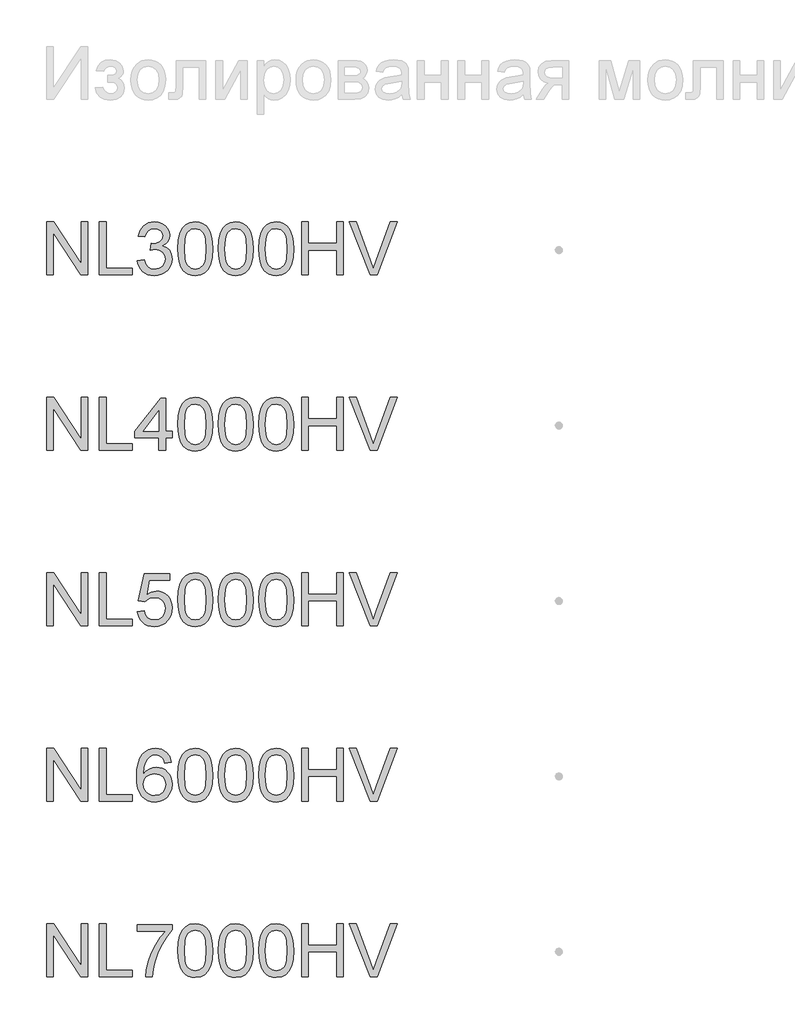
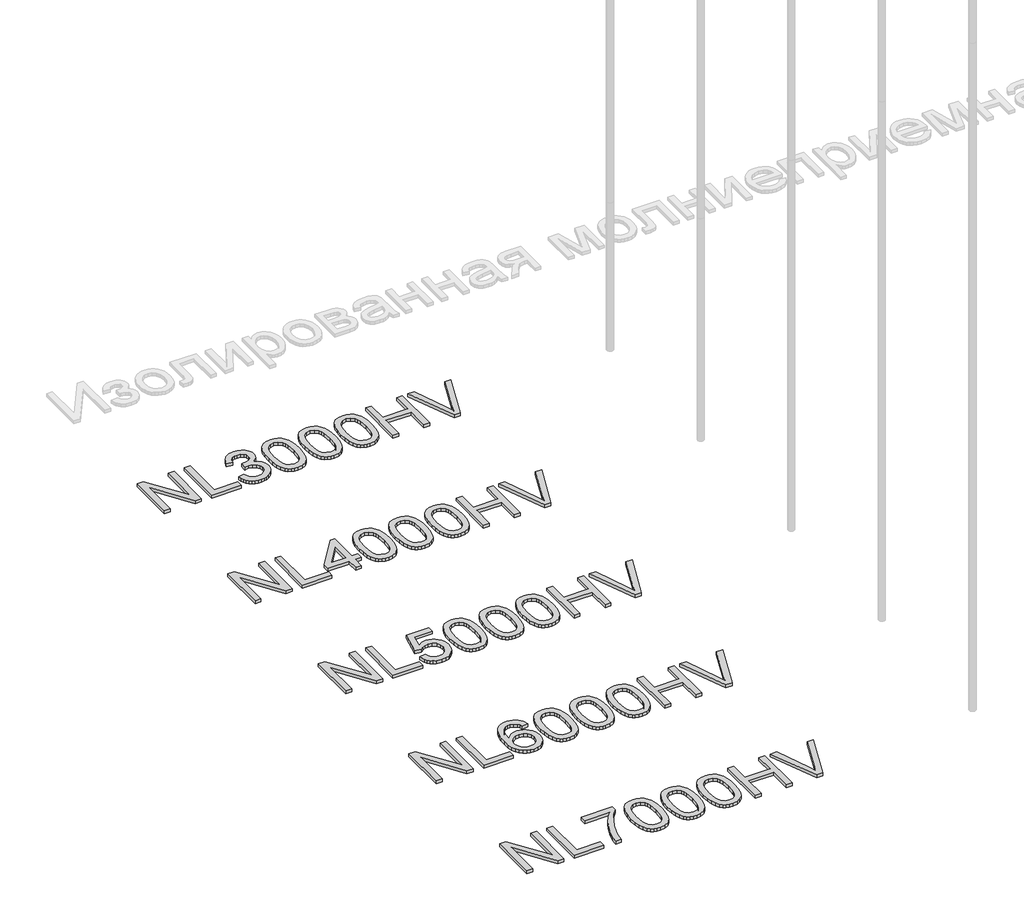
# One storey, part 8 of 124: 5 proxies.
"""IFC4 building model written with IfcOpenShell, lengths in millimetres."""

from ifc_helpers import new_model, si_unit, origin, origin_with_axes, place, context, project, spatial, polyline, outline, extrude, element, save

model = new_model("IFC4")

# Units and contexts
model_context = context("Model", 3, world=origin())
ifc_project = project(units=[si_unit("LENGTHUNIT", "METRE", prefix="MILLI")], contexts=[model_context])

# Site, building, storey
site = spatial("IfcSite", under=ifc_project)
building = spatial("IfcBuilding", under=site)
storey = spatial("IfcBuildingStorey", under=building, Name="Этаж 01", Elevation=0.0)

# Proxies
placement = place(None, origin())
element("IfcBuildingElementProxy", 1, Name="300", ObjectType="300", at=placement, inside=storey, context=model_context, shape_type="SweptSolid", body=[
    extrude(outline(polyline([(1299.8220677, -118548.8731539), (1299.8220677, -118247.5042234), (1340.1419344, -118247.5042234), (1497.5954283, -118486.2596383), (1497.5954283, -118247.5042234), (1535.2665446, -118247.5042234), (1535.2665446, -118548.8731539), (1494.9466779, -118548.8731539), (1337.493184, -118310.0441626), (1337.493184, -118548.8731539), (1299.8220677, -118548.8731539)])), origin_with_axes(), (0.0, 0.0, 1.0), 20.0),
    extrude(outline(polyline([(1601.1909981, -118548.8731539), (1601.1909981, -118247.5042234), (1638.8621144, -118247.5042234), (1638.8621144, -118511.2020376), (1789.5465797, -118511.2020376), (1789.5465797, -118548.8731539), (1601.1909981, -118548.8731539)])), origin_with_axes(), (0.0, 0.0, 1.0), 20.0),
    extrude(outline(polyline([(1817.7999169, -118468.8220317), (1855.4710332, -118464.1131422), (1863.9047279, -118487.7863486), (1876.2563659, -118503.7708213), (1893.1329525, -118512.8759007), (1915.1414928, -118515.9109271), (1940.9668089, -118511.7354665), (1960.906013, -118499.2090845), (1973.6531242, -118480.5206792), (1977.9021612, -118457.8591483), (1973.6899124, -118436.3472486), (1961.0531658, -118418.900445), (1941.9233021, -118407.3397533), (1918.2317016, -118403.4861894), (1891.8177743, -118407.6064677), (1896.0116291, -118369.9353514), (1902.0448938, -118370.3768098), (1924.6144542, -118367.6728772), (1944.7927816, -118359.5610792), (1959.0298149, -118345.8390807), (1963.7754926, -118326.3045468), (1960.3357959, -118310.0349656), (1950.016706, -118296.837199), (1934.2713566, -118288.0908046), (1914.5528816, -118285.1753397), (1894.7976185, -118288.1183957), (1878.6475989, -118296.9475636), (1866.856981, -118311.6628434), (1860.1799227, -118332.2642351), (1822.5088064, -118327.5553456), (1833.6004486, -118293.7285961), (1853.3373176, -118268.4734972), (1880.3398561, -118252.7465419), (1913.2285065, -118247.5042234), (1936.9109099, -118250.0885945), (1958.6619329, -118257.8417075), (1977.0008503, -118270.0737838), (1990.4469372, -118286.0950447), (1998.696691, -118304.5535238), (2001.4466089, -118324.0972548), (1998.8346467, -118342.3074136), (1990.9987602, -118358.8253152), (1978.049314, -118372.8968015), (1960.0966726, -118383.7677145), (1983.6779085, -118393.2958581), (2001.1523033, -118409.5194541), (2011.968034, -118431.5555856), (2015.5732775, -118458.5213359), (2013.7706557, -118477.6328055), (2008.3627904, -118495.235959), (1999.3496815, -118511.3307963), (1986.7313291, -118525.9173174), (1971.3584602, -118538.020635), (1954.081802, -118546.6658619), (1934.9013545, -118551.852998), (1913.8171176, -118553.5820434), (1894.7608303, -118552.1059169), (1877.3968001, -118547.6775374), (1861.7250271, -118540.2969049), (1847.7455113, -118529.9640193), (1836.0238712, -118517.2858861), (1827.1257255, -118502.8695104), (1821.051074, -118486.7148923), (1817.7999169, -118468.8220317)])), origin_with_axes(), (0.0, 0.0, 1.0), 20.0),
    extrude(outline(polyline([(2048.5355043, -118400.6167098), (2051.3038163, -118352.3781832), (2059.6087523, -118313.9069236), (2073.367539, -118284.6143197), (2092.4974027, -118263.9117604), (2117.1362993, -118251.6061077), (2147.4221846, -118247.5042234), (2170.6355385, -118249.9322446), (2191.4208712, -118257.2163081), (2208.8032955, -118269.0713054), (2221.807924, -118285.2121279), (2231.6303733, -118305.50082), (2239.4662598, -118329.7994258), (2244.5982136, -118360.6555281), (2246.3088649, -118400.6167098), (2243.568144, -118448.579325), (2235.3459814, -118486.9586141), (2221.6699683, -118516.2788091), (2202.5676957, -118537.0641418), (2177.8736167, -118549.452568), (2147.4221846, -118553.5820434), (2126.6736401, -118551.7886187), (2108.2795403, -118546.4083445), (2092.2398853, -118537.4412209), (2078.5546751, -118524.8872478), (2065.4212879, -118502.1935272), (2056.040297, -118473.9171974), (2050.4117025, -118440.0582582), (2048.5355043, -118400.6167098)]), holes=[polyline([(2086.2066206, -118400.5431334), (2090.6212045, -118459.7997258), (2096.1394345, -118480.0677245), (2103.8649564, -118494.0955248), (2123.5834313, -118510.4570765), (2147.4221846, -118515.9109271), (2171.2609379, -118510.4386824), (2190.9794128, -118494.0219484), (2198.7049347, -118479.9711555), (2204.2231646, -118459.7077553), (2208.6377486, -118400.5431334), (2204.3703174, -118342.6201133), (2199.0360285, -118322.4187932), (2191.568024, -118308.0575998), (2171.8863373, -118290.8959048), (2146.9807262, -118285.1753397), (2123.3994903, -118290.2153231), (2104.4535675, -118305.3352731), (2096.4705282, -118320.9702579), (2090.7683573, -118342.0498962), (2086.2066206, -118400.5431334)])]), origin_with_axes(), (0.0, 0.0, 1.0), 20.0),
    extrude(outline(polyline([(2279.2710917, -118400.6167098), (2282.0394037, -118352.3781832), (2290.3443397, -118313.9069236), (2304.1031263, -118284.6143197), (2323.2329901, -118263.9117604), (2347.8718867, -118251.6061077), (2378.157772, -118247.5042234), (2401.3711259, -118249.9322446), (2422.1564586, -118257.2163081), (2439.5388829, -118269.0713054), (2452.5435114, -118285.2121279), (2462.3659607, -118305.50082), (2470.2018471, -118329.7994258), (2475.333801, -118360.6555281), (2477.0444523, -118400.6167098), (2474.3037314, -118448.579325), (2466.0815688, -118486.9586141), (2452.4055556, -118516.2788091), (2433.303283, -118537.0641418), (2408.6092041, -118549.452568), (2378.157772, -118553.5820434), (2357.4092274, -118551.7886187), (2339.0151277, -118546.4083445), (2322.9754727, -118537.4412209), (2309.2902625, -118524.8872478), (2296.1568752, -118502.1935272), (2286.7758844, -118473.9171974), (2281.1472898, -118440.0582582), (2279.2710917, -118400.6167098)]), holes=[polyline([(2316.942208, -118400.5431334), (2321.3567919, -118459.7997258), (2326.8750218, -118480.0677245), (2334.6005437, -118494.0955248), (2354.3190187, -118510.4570765), (2378.157772, -118515.9109271), (2401.9965252, -118510.4386824), (2421.7150002, -118494.0219484), (2429.4405221, -118479.9711555), (2434.958752, -118459.7077553), (2439.373336, -118400.5431334), (2435.1059048, -118342.6201133), (2429.7716159, -118322.4187932), (2422.3036114, -118308.0575998), (2402.6219246, -118290.8959048), (2377.7163136, -118285.1753397), (2354.1350777, -118290.2153231), (2335.1891549, -118305.3352731), (2327.2061156, -118320.9702579), (2321.5039447, -118342.0498962), (2316.942208, -118400.5431334)])]), origin_with_axes(), (0.0, 0.0, 1.0), 20.0),
    extrude(outline(polyline([(2510.006679, -118400.6167098), (2512.774991, -118352.3781832), (2521.0799271, -118313.9069236), (2534.8387137, -118284.6143197), (2553.9685775, -118263.9117604), (2578.6074741, -118251.6061077), (2608.8933593, -118247.5042234), (2632.1067132, -118249.9322446), (2652.892046, -118257.2163081), (2670.2744702, -118269.0713054), (2683.2790988, -118285.2121279), (2693.101548, -118305.50082), (2700.9374345, -118329.7994258), (2706.0693884, -118360.6555281), (2707.7800396, -118400.6167098), (2705.0393188, -118448.579325), (2696.8171562, -118486.9586141), (2683.141143, -118516.2788091), (2664.0388704, -118537.0641418), (2639.3447915, -118549.452568), (2608.8933593, -118553.5820434), (2588.1448148, -118551.7886187), (2569.750715, -118546.4083445), (2553.7110601, -118537.4412209), (2540.0258498, -118524.8872478), (2526.8924626, -118502.1935272), (2517.5114717, -118473.9171974), (2511.8828772, -118440.0582582), (2510.006679, -118400.6167098)]), holes=[polyline([(2547.6777953, -118400.5431334), (2552.0923793, -118459.7997258), (2557.6106092, -118480.0677245), (2565.3361311, -118494.0955248), (2585.054606, -118510.4570765), (2608.8933593, -118515.9109271), (2632.7321126, -118510.4386824), (2652.4505876, -118494.0219484), (2660.1761095, -118479.9711555), (2665.6943394, -118459.7077553), (2670.1089233, -118400.5431334), (2665.8414922, -118342.6201133), (2660.5072033, -118322.4187932), (2653.0391988, -118308.0575998), (2633.357512, -118290.8959048), (2608.4519009, -118285.1753397), (2584.870665, -118290.2153231), (2565.9247423, -118305.3352731), (2557.941703, -118320.9702579), (2552.2395321, -118342.0498962), (2547.6777953, -118400.5431334)])]), origin_with_axes(), (0.0, 0.0, 1.0), 20.0),
    extrude(outline(polyline([(2754.868935, -118548.8731539), (2754.868935, -118247.5042234), (2792.5400513, -118247.5042234), (2792.5400513, -118369.9353514), (2952.6422956, -118369.9353514), (2952.6422956, -118247.5042234), (2990.3134119, -118247.5042234), (2990.3134119, -118548.8731539), (2952.6422956, -118548.8731539), (2952.6422956, -118407.6064677), (2792.5400513, -118407.6064677), (2792.5400513, -118548.8731539), (2754.868935, -118548.8731539)])), origin_with_axes(), (0.0, 0.0, 1.0), 20.0),
    extrude(outline(polyline([(3145.2653083, -118548.8731539), (3025.3357779, -118247.5042234), (3065.6556445, -118247.5042234), (3145.9274959, -118464.628177), (3162.1878801, -118513.5564823), (3178.2275351, -118464.628177), (3258.7201156, -118247.5042234), (3299.0399823, -118247.5042234), (3184.1872234, -118548.8731539), (3145.2653083, -118548.8731539)])), origin_with_axes(), (0.0, 0.0, 1.0), 20.0),
])
element("IfcBuildingElementProxy", 2, Name="300", ObjectType="300", at=placement, inside=storey, context=model_context, shape_type="SweptSolid", body=[
    extrude(outline(polyline([(1299.8220677, -119548.8731539), (1299.8220677, -119247.5042234), (1340.1419344, -119247.5042234), (1497.5954283, -119486.2596383), (1497.5954283, -119247.5042234), (1535.2665446, -119247.5042234), (1535.2665446, -119548.8731539), (1494.9466779, -119548.8731539), (1337.493184, -119310.0441626), (1337.493184, -119548.8731539), (1299.8220677, -119548.8731539)])), origin_with_axes(), (0.0, 0.0, 1.0), 20.0),
    extrude(outline(polyline([(1601.1909981, -119548.8731539), (1601.1909981, -119247.5042234), (1638.8621144, -119247.5042234), (1638.8621144, -119511.2020376), (1789.5465797, -119511.2020376), (1789.5465797, -119548.8731539), (1601.1909981, -119548.8731539)])), origin_with_axes(), (0.0, 0.0, 1.0), 20.0),
    extrude(outline(polyline([(1940.2310449, -119548.8731539), (1940.2310449, -119478.2398108), (1803.6732483, -119478.2398108), (1803.6732483, -119440.5686945), (1949.648824, -119252.213113), (1977.9021612, -119252.213113), (1977.9021612, -119440.5686945), (2015.5732775, -119440.5686945), (2015.5732775, -119478.2398108), (1977.9021612, -119478.2398108), (1977.9021612, -119548.8731539), (1940.2310449, -119548.8731539)]), holes=[polyline([(1940.2310449, -119440.5686945), (1940.2310449, -119324.1708312), (1850.0263797, -119440.5686945), (1940.2310449, -119440.5686945)])]), origin_with_axes(), (0.0, 0.0, 1.0), 20.0),
    extrude(outline(polyline([(2048.5355043, -119400.6167098), (2051.3038163, -119352.3781832), (2059.6087523, -119313.9069236), (2073.367539, -119284.6143197), (2092.4974027, -119263.9117604), (2117.1362993, -119251.6061077), (2147.4221846, -119247.5042234), (2170.6355385, -119249.9322446), (2191.4208712, -119257.2163081), (2208.8032955, -119269.0713054), (2221.807924, -119285.2121279), (2231.6303733, -119305.50082), (2239.4662598, -119329.7994258), (2244.5982136, -119360.6555281), (2246.3088649, -119400.6167098), (2243.568144, -119448.579325), (2235.3459814, -119486.9586141), (2221.6699683, -119516.2788091), (2202.5676957, -119537.0641418), (2177.8736167, -119549.452568), (2147.4221846, -119553.5820434), (2126.6736401, -119551.7886187), (2108.2795403, -119546.4083445), (2092.2398853, -119537.4412209), (2078.5546751, -119524.8872478), (2065.4212879, -119502.1935272), (2056.040297, -119473.9171974), (2050.4117025, -119440.0582582), (2048.5355043, -119400.6167098)]), holes=[polyline([(2086.2066206, -119400.5431334), (2090.6212045, -119459.7997258), (2096.1394345, -119480.0677245), (2103.8649564, -119494.0955248), (2123.5834313, -119510.4570765), (2147.4221846, -119515.9109271), (2171.2609379, -119510.4386824), (2190.9794128, -119494.0219484), (2198.7049347, -119479.9711555), (2204.2231646, -119459.7077553), (2208.6377486, -119400.5431334), (2204.3703174, -119342.6201133), (2199.0360285, -119322.4187932), (2191.568024, -119308.0575998), (2171.8863373, -119290.8959048), (2146.9807262, -119285.1753397), (2123.3994903, -119290.2153231), (2104.4535675, -119305.3352731), (2096.4705282, -119320.9702579), (2090.7683573, -119342.0498962), (2086.2066206, -119400.5431334)])]), origin_with_axes(), (0.0, 0.0, 1.0), 20.0),
    extrude(outline(polyline([(2279.2710917, -119400.6167098), (2282.0394037, -119352.3781832), (2290.3443397, -119313.9069236), (2304.1031263, -119284.6143197), (2323.2329901, -119263.9117604), (2347.8718867, -119251.6061077), (2378.157772, -119247.5042234), (2401.3711259, -119249.9322446), (2422.1564586, -119257.2163081), (2439.5388829, -119269.0713054), (2452.5435114, -119285.2121279), (2462.3659607, -119305.50082), (2470.2018471, -119329.7994258), (2475.333801, -119360.6555281), (2477.0444523, -119400.6167098), (2474.3037314, -119448.579325), (2466.0815688, -119486.9586141), (2452.4055556, -119516.2788091), (2433.303283, -119537.0641418), (2408.6092041, -119549.452568), (2378.157772, -119553.5820434), (2357.4092274, -119551.7886187), (2339.0151277, -119546.4083445), (2322.9754727, -119537.4412209), (2309.2902625, -119524.8872478), (2296.1568752, -119502.1935272), (2286.7758844, -119473.9171974), (2281.1472898, -119440.0582582), (2279.2710917, -119400.6167098)]), holes=[polyline([(2316.942208, -119400.5431334), (2321.3567919, -119459.7997258), (2326.8750218, -119480.0677245), (2334.6005437, -119494.0955248), (2354.3190187, -119510.4570765), (2378.157772, -119515.9109271), (2401.9965252, -119510.4386824), (2421.7150002, -119494.0219484), (2429.4405221, -119479.9711555), (2434.958752, -119459.7077553), (2439.373336, -119400.5431334), (2435.1059048, -119342.6201133), (2429.7716159, -119322.4187932), (2422.3036114, -119308.0575998), (2402.6219246, -119290.8959048), (2377.7163136, -119285.1753397), (2354.1350777, -119290.2153231), (2335.1891549, -119305.3352731), (2327.2061156, -119320.9702579), (2321.5039447, -119342.0498962), (2316.942208, -119400.5431334)])]), origin_with_axes(), (0.0, 0.0, 1.0), 20.0),
    extrude(outline(polyline([(2510.006679, -119400.6167098), (2512.774991, -119352.3781832), (2521.0799271, -119313.9069236), (2534.8387137, -119284.6143197), (2553.9685775, -119263.9117604), (2578.6074741, -119251.6061077), (2608.8933593, -119247.5042234), (2632.1067132, -119249.9322446), (2652.892046, -119257.2163081), (2670.2744702, -119269.0713054), (2683.2790988, -119285.2121279), (2693.101548, -119305.50082), (2700.9374345, -119329.7994258), (2706.0693884, -119360.6555281), (2707.7800396, -119400.6167098), (2705.0393188, -119448.579325), (2696.8171562, -119486.9586141), (2683.141143, -119516.2788091), (2664.0388704, -119537.0641418), (2639.3447915, -119549.452568), (2608.8933593, -119553.5820434), (2588.1448148, -119551.7886187), (2569.750715, -119546.4083445), (2553.7110601, -119537.4412209), (2540.0258498, -119524.8872478), (2526.8924626, -119502.1935272), (2517.5114717, -119473.9171974), (2511.8828772, -119440.0582582), (2510.006679, -119400.6167098)]), holes=[polyline([(2547.6777953, -119400.5431334), (2552.0923793, -119459.7997258), (2557.6106092, -119480.0677245), (2565.3361311, -119494.0955248), (2585.054606, -119510.4570765), (2608.8933593, -119515.9109271), (2632.7321126, -119510.4386824), (2652.4505876, -119494.0219484), (2660.1761095, -119479.9711555), (2665.6943394, -119459.7077553), (2670.1089233, -119400.5431334), (2665.8414922, -119342.6201133), (2660.5072033, -119322.4187932), (2653.0391988, -119308.0575998), (2633.357512, -119290.8959048), (2608.4519009, -119285.1753397), (2584.870665, -119290.2153231), (2565.9247423, -119305.3352731), (2557.941703, -119320.9702579), (2552.2395321, -119342.0498962), (2547.6777953, -119400.5431334)])]), origin_with_axes(), (0.0, 0.0, 1.0), 20.0),
    extrude(outline(polyline([(2754.868935, -119548.8731539), (2754.868935, -119247.5042234), (2792.5400513, -119247.5042234), (2792.5400513, -119369.9353514), (2952.6422956, -119369.9353514), (2952.6422956, -119247.5042234), (2990.3134119, -119247.5042234), (2990.3134119, -119548.8731539), (2952.6422956, -119548.8731539), (2952.6422956, -119407.6064677), (2792.5400513, -119407.6064677), (2792.5400513, -119548.8731539), (2754.868935, -119548.8731539)])), origin_with_axes(), (0.0, 0.0, 1.0), 20.0),
    extrude(outline(polyline([(3145.2653083, -119548.8731539), (3025.3357779, -119247.5042234), (3065.6556445, -119247.5042234), (3145.9274959, -119464.628177), (3162.1878801, -119513.5564823), (3178.2275351, -119464.628177), (3258.7201156, -119247.5042234), (3299.0399823, -119247.5042234), (3184.1872234, -119548.8731539), (3145.2653083, -119548.8731539)])), origin_with_axes(), (0.0, 0.0, 1.0), 20.0),
])
element("IfcBuildingElementProxy", 3, Name="300", ObjectType="300", at=placement, inside=storey, context=model_context, shape_type="SweptSolid", body=[
    extrude(outline(polyline([(1299.8220677, -120548.8731539), (1299.8220677, -120247.5042234), (1340.1419344, -120247.5042234), (1497.5954283, -120486.2596383), (1497.5954283, -120247.5042234), (1535.2665446, -120247.5042234), (1535.2665446, -120548.8731539), (1494.9466779, -120548.8731539), (1337.493184, -120310.0441626), (1337.493184, -120548.8731539), (1299.8220677, -120548.8731539)])), origin_with_axes(), (0.0, 0.0, 1.0), 20.0),
    extrude(outline(polyline([(1601.1909981, -120548.8731539), (1601.1909981, -120247.5042234), (1638.8621144, -120247.5042234), (1638.8621144, -120511.2020376), (1789.5465797, -120511.2020376), (1789.5465797, -120548.8731539), (1601.1909981, -120548.8731539)])), origin_with_axes(), (0.0, 0.0, 1.0), 20.0),
    extrude(outline(polyline([(1817.7999169, -120468.8220317), (1855.4710332, -120464.1131422), (1862.3872147, -120486.7286879), (1874.4537442, -120502.9246927), (1891.6154392, -120512.6643685), (1913.8171176, -120515.9109271), (1940.8196561, -120511.3951756), (1961.0531658, -120497.8479212), (1973.6899124, -120476.8326622), (1977.9021612, -120449.9128972), (1973.9566268, -120424.5658277), (1962.1200236, -120405.1784466), (1942.3003811, -120392.8727938), (1914.4057288, -120388.7709096), (1896.1311907, -120390.4079845), (1881.3331375, -120395.3192091), (1860.1799227, -120412.3153573), (1822.5088064, -120407.6064677), (1855.4710332, -120252.213113), (2001.4466089, -120252.213113), (2001.4466089, -120289.8842293), (1885.9316624, -120289.8842293), (1869.818431, -120372.8784074), (1896.728999, -120356.5444468), (1924.9271539, -120351.0997933), (1943.2729691, -120352.7874519), (1960.1242638, -120357.8504279), (1975.4810378, -120366.2887212), (1989.3432913, -120378.1023317), (2000.8189102, -120392.5692912), (2009.0157809, -120408.9676311), (2013.9339034, -120427.2973515), (2015.5732775, -120447.5584524), (2009.6687715, -120485.2295687), (2002.288139, -120502.0233818), (1991.9552534, -120517.4560315), (1976.3018745, -120533.2611617), (1958.0365335, -120544.5505404), (1937.1592302, -120551.3241677), (1913.6699648, -120553.5820434), (1876.6702332, -120547.7787049), (1860.9915624, -120540.5245319), (1847.1936883, -120530.3686895), (1835.7134708, -120517.8170157), (1826.9877697, -120503.3753481), (1817.7999169, -120468.8220317)])), origin_with_axes(), (0.0, 0.0, 1.0), 20.0),
    extrude(outline(polyline([(2048.5355043, -120400.6167098), (2051.3038163, -120352.3781832), (2059.6087523, -120313.9069236), (2073.367539, -120284.6143197), (2092.4974027, -120263.9117604), (2117.1362993, -120251.6061077), (2147.4221846, -120247.5042234), (2170.6355385, -120249.9322446), (2191.4208712, -120257.2163081), (2208.8032955, -120269.0713054), (2221.807924, -120285.2121279), (2231.6303733, -120305.50082), (2239.4662598, -120329.7994258), (2244.5982136, -120360.6555281), (2246.3088649, -120400.6167098), (2243.568144, -120448.579325), (2235.3459814, -120486.9586141), (2221.6699683, -120516.2788091), (2202.5676957, -120537.0641418), (2177.8736167, -120549.452568), (2147.4221846, -120553.5820434), (2126.6736401, -120551.7886187), (2108.2795403, -120546.4083445), (2092.2398853, -120537.4412209), (2078.5546751, -120524.8872478), (2065.4212879, -120502.1935272), (2056.040297, -120473.9171974), (2050.4117025, -120440.0582582), (2048.5355043, -120400.6167098)]), holes=[polyline([(2086.2066206, -120400.5431334), (2090.6212045, -120459.7997258), (2096.1394345, -120480.0677245), (2103.8649564, -120494.0955248), (2123.5834313, -120510.4570765), (2147.4221846, -120515.9109271), (2171.2609379, -120510.4386824), (2190.9794128, -120494.0219484), (2198.7049347, -120479.9711555), (2204.2231646, -120459.7077553), (2208.6377486, -120400.5431334), (2204.3703174, -120342.6201133), (2199.0360285, -120322.4187932), (2191.568024, -120308.0575998), (2171.8863373, -120290.8959048), (2146.9807262, -120285.1753397), (2123.3994903, -120290.2153231), (2104.4535675, -120305.3352731), (2096.4705282, -120320.9702579), (2090.7683573, -120342.0498962), (2086.2066206, -120400.5431334)])]), origin_with_axes(), (0.0, 0.0, 1.0), 20.0),
    extrude(outline(polyline([(2279.2710917, -120400.6167098), (2282.0394037, -120352.3781832), (2290.3443397, -120313.9069236), (2304.1031263, -120284.6143197), (2323.2329901, -120263.9117604), (2347.8718867, -120251.6061077), (2378.157772, -120247.5042234), (2401.3711259, -120249.9322446), (2422.1564586, -120257.2163081), (2439.5388829, -120269.0713054), (2452.5435114, -120285.2121279), (2462.3659607, -120305.50082), (2470.2018471, -120329.7994258), (2475.333801, -120360.6555281), (2477.0444523, -120400.6167098), (2474.3037314, -120448.579325), (2466.0815688, -120486.9586141), (2452.4055556, -120516.2788091), (2433.303283, -120537.0641418), (2408.6092041, -120549.452568), (2378.157772, -120553.5820434), (2357.4092274, -120551.7886187), (2339.0151277, -120546.4083445), (2322.9754727, -120537.4412209), (2309.2902625, -120524.8872478), (2296.1568752, -120502.1935272), (2286.7758844, -120473.9171974), (2281.1472898, -120440.0582582), (2279.2710917, -120400.6167098)]), holes=[polyline([(2316.942208, -120400.5431334), (2321.3567919, -120459.7997258), (2326.8750218, -120480.0677245), (2334.6005437, -120494.0955248), (2354.3190187, -120510.4570765), (2378.157772, -120515.9109271), (2401.9965252, -120510.4386824), (2421.7150002, -120494.0219484), (2429.4405221, -120479.9711555), (2434.958752, -120459.7077553), (2439.373336, -120400.5431334), (2435.1059048, -120342.6201133), (2429.7716159, -120322.4187932), (2422.3036114, -120308.0575998), (2402.6219246, -120290.8959048), (2377.7163136, -120285.1753397), (2354.1350777, -120290.2153231), (2335.1891549, -120305.3352731), (2327.2061156, -120320.9702579), (2321.5039447, -120342.0498962), (2316.942208, -120400.5431334)])]), origin_with_axes(), (0.0, 0.0, 1.0), 20.0),
    extrude(outline(polyline([(2510.006679, -120400.6167098), (2512.774991, -120352.3781832), (2521.0799271, -120313.9069236), (2534.8387137, -120284.6143197), (2553.9685775, -120263.9117604), (2578.6074741, -120251.6061077), (2608.8933593, -120247.5042234), (2632.1067132, -120249.9322446), (2652.892046, -120257.2163081), (2670.2744702, -120269.0713054), (2683.2790988, -120285.2121279), (2693.101548, -120305.50082), (2700.9374345, -120329.7994258), (2706.0693884, -120360.6555281), (2707.7800396, -120400.6167098), (2705.0393188, -120448.579325), (2696.8171562, -120486.9586141), (2683.141143, -120516.2788091), (2664.0388704, -120537.0641418), (2639.3447915, -120549.452568), (2608.8933593, -120553.5820434), (2588.1448148, -120551.7886187), (2569.750715, -120546.4083445), (2553.7110601, -120537.4412209), (2540.0258498, -120524.8872478), (2526.8924626, -120502.1935272), (2517.5114717, -120473.9171974), (2511.8828772, -120440.0582582), (2510.006679, -120400.6167098)]), holes=[polyline([(2547.6777953, -120400.5431334), (2552.0923793, -120459.7997258), (2557.6106092, -120480.0677245), (2565.3361311, -120494.0955248), (2585.054606, -120510.4570765), (2608.8933593, -120515.9109271), (2632.7321126, -120510.4386824), (2652.4505876, -120494.0219484), (2660.1761095, -120479.9711555), (2665.6943394, -120459.7077553), (2670.1089233, -120400.5431334), (2665.8414922, -120342.6201133), (2660.5072033, -120322.4187932), (2653.0391988, -120308.0575998), (2633.357512, -120290.8959048), (2608.4519009, -120285.1753397), (2584.870665, -120290.2153231), (2565.9247423, -120305.3352731), (2557.941703, -120320.9702579), (2552.2395321, -120342.0498962), (2547.6777953, -120400.5431334)])]), origin_with_axes(), (0.0, 0.0, 1.0), 20.0),
    extrude(outline(polyline([(2754.868935, -120548.8731539), (2754.868935, -120247.5042234), (2792.5400513, -120247.5042234), (2792.5400513, -120369.9353514), (2952.6422956, -120369.9353514), (2952.6422956, -120247.5042234), (2990.3134119, -120247.5042234), (2990.3134119, -120548.8731539), (2952.6422956, -120548.8731539), (2952.6422956, -120407.6064677), (2792.5400513, -120407.6064677), (2792.5400513, -120548.8731539), (2754.868935, -120548.8731539)])), origin_with_axes(), (0.0, 0.0, 1.0), 20.0),
    extrude(outline(polyline([(3145.2653083, -120548.8731539), (3025.3357779, -120247.5042234), (3065.6556445, -120247.5042234), (3145.9274959, -120464.628177), (3162.1878801, -120513.5564823), (3178.2275351, -120464.628177), (3258.7201156, -120247.5042234), (3299.0399823, -120247.5042234), (3184.1872234, -120548.8731539), (3145.2653083, -120548.8731539)])), origin_with_axes(), (0.0, 0.0, 1.0), 20.0),
])
element("IfcBuildingElementProxy", 4, Name="300", ObjectType="300", at=placement, inside=storey, context=model_context, shape_type="SweptSolid", body=[
    extrude(outline(polyline([(1299.8220677, -121548.8731539), (1299.8220677, -121247.5042234), (1340.1419344, -121247.5042234), (1497.5954283, -121486.2596383), (1497.5954283, -121247.5042234), (1535.2665446, -121247.5042234), (1535.2665446, -121548.8731539), (1494.9466779, -121548.8731539), (1337.493184, -121310.0441626), (1337.493184, -121548.8731539), (1299.8220677, -121548.8731539)])), origin_with_axes(), (0.0, 0.0, 1.0), 20.0),
    extrude(outline(polyline([(1601.1909981, -121548.8731539), (1601.1909981, -121247.5042234), (1638.8621144, -121247.5042234), (1638.8621144, -121511.2020376), (1789.5465797, -121511.2020376), (1789.5465797, -121548.8731539), (1601.1909981, -121548.8731539)])), origin_with_axes(), (0.0, 0.0, 1.0), 20.0),
    extrude(outline(polyline([(2010.864388, -121327.5553456), (1973.1932717, -121332.2642351), (1967.1232187, -121313.5942239), (1958.9194503, -121300.8471127), (1941.8313316, -121289.093283), (1921.1747575, -121285.1753397), (1903.6635746, -121287.4562081), (1887.1824612, -121294.2988132), (1873.0282014, -121308.7105904), (1861.4675097, -121328.548627), (1853.6592144, -121356.6088262), (1850.7621437, -121395.6870911), (1865.8728966, -121378.0563465), (1883.9818878, -121365.6311321), (1904.0774418, -121358.2642951), (1925.1478831, -121355.8086828), (1943.2476773, -121357.4871444), (1959.9495198, -121362.5225292), (1975.2534108, -121370.9148372), (1989.1593503, -121382.6640685), (2000.7154434, -121397.0712471), (2008.9697957, -121413.4373974), (2013.9224071, -121431.7625192), (2015.5732775, -121452.0466128), (2012.4646747, -121479.0215601), (2003.1388661, -121504.0283387), (1988.368404, -121525.2367357), (1968.9258405, -121540.8165382), (1945.6940925, -121550.3906671), (1919.5560768, -121553.5820434), (1897.0991802, -121551.466722), (1876.817386, -121545.1207575), (1858.710694, -121534.5441502), (1842.7791044, -121519.7368999), (1829.7905707, -121500.0736072), (1820.5130466, -121474.9288729), (1814.9465322, -121444.3026968), (1813.0910274, -121408.1950789), (1815.1511665, -121367.7142639), (1821.3315841, -121333.165546), (1831.6322799, -121304.5489253), (1846.0532541, -121281.8644018), (1861.6836404, -121266.8318238), (1879.8064272, -121256.094268), (1900.4216145, -121249.6517346), (1923.5292023, -121247.5042234), (1956.5833996, -121252.8201183), (1983.0525091, -121268.7678028), (2001.5937617, -121294.0964781), (2010.864388, -121327.5553456)]), holes=[polyline([(1850.7621437, -121451.4580016), (1852.9418445, -121468.1506471), (1859.480947, -121484.0891345), (1869.63449, -121497.7927389), (1882.6575127, -121507.780735), (1898.3752709, -121513.8783791), (1916.6130208, -121515.9109271), (1941.4726466, -121511.6986783), (1961.0163776, -121499.0619317), (1973.6807153, -121479.196304), (1977.9021612, -121453.2974115), (1973.7358976, -121428.4377857), (1961.2371068, -121409.4826659), (1941.362282, -121397.4805158), (1915.0679164, -121393.4797991), (1890.2450788, -121397.4805158), (1869.4873372, -121409.4826659), (1855.4434421, -121427.9779332), (1850.7621437, -121451.4580016)])]), origin_with_axes(), (0.0, 0.0, 1.0), 20.0),
    extrude(outline(polyline([(2048.5355043, -121400.6167098), (2051.3038163, -121352.3781832), (2059.6087523, -121313.9069236), (2073.367539, -121284.6143197), (2092.4974027, -121263.9117604), (2117.1362993, -121251.6061077), (2147.4221846, -121247.5042234), (2170.6355385, -121249.9322446), (2191.4208712, -121257.2163081), (2208.8032955, -121269.0713054), (2221.807924, -121285.2121279), (2231.6303733, -121305.50082), (2239.4662598, -121329.7994258), (2244.5982136, -121360.6555281), (2246.3088649, -121400.6167098), (2243.568144, -121448.579325), (2235.3459814, -121486.9586141), (2221.6699683, -121516.2788091), (2202.5676957, -121537.0641418), (2177.8736167, -121549.452568), (2147.4221846, -121553.5820434), (2126.6736401, -121551.7886187), (2108.2795403, -121546.4083445), (2092.2398853, -121537.4412209), (2078.5546751, -121524.8872478), (2065.4212879, -121502.1935272), (2056.040297, -121473.9171974), (2050.4117025, -121440.0582582), (2048.5355043, -121400.6167098)]), holes=[polyline([(2086.2066206, -121400.5431334), (2090.6212045, -121459.7997258), (2096.1394345, -121480.0677245), (2103.8649564, -121494.0955248), (2123.5834313, -121510.4570765), (2147.4221846, -121515.9109271), (2171.2609379, -121510.4386824), (2190.9794128, -121494.0219484), (2198.7049347, -121479.9711555), (2204.2231646, -121459.7077553), (2208.6377486, -121400.5431334), (2204.3703174, -121342.6201133), (2199.0360285, -121322.4187932), (2191.568024, -121308.0575998), (2171.8863373, -121290.8959048), (2146.9807262, -121285.1753397), (2123.3994903, -121290.2153231), (2104.4535675, -121305.3352731), (2096.4705282, -121320.9702579), (2090.7683573, -121342.0498962), (2086.2066206, -121400.5431334)])]), origin_with_axes(), (0.0, 0.0, 1.0), 20.0),
    extrude(outline(polyline([(2279.2710917, -121400.6167098), (2282.0394037, -121352.3781832), (2290.3443397, -121313.9069236), (2304.1031263, -121284.6143197), (2323.2329901, -121263.9117604), (2347.8718867, -121251.6061077), (2378.157772, -121247.5042234), (2401.3711259, -121249.9322446), (2422.1564586, -121257.2163081), (2439.5388829, -121269.0713054), (2452.5435114, -121285.2121279), (2462.3659607, -121305.50082), (2470.2018471, -121329.7994258), (2475.333801, -121360.6555281), (2477.0444523, -121400.6167098), (2474.3037314, -121448.579325), (2466.0815688, -121486.9586141), (2452.4055556, -121516.2788091), (2433.303283, -121537.0641418), (2408.6092041, -121549.452568), (2378.157772, -121553.5820434), (2357.4092274, -121551.7886187), (2339.0151277, -121546.4083445), (2322.9754727, -121537.4412209), (2309.2902625, -121524.8872478), (2296.1568752, -121502.1935272), (2286.7758844, -121473.9171974), (2281.1472898, -121440.0582582), (2279.2710917, -121400.6167098)]), holes=[polyline([(2316.942208, -121400.5431334), (2321.3567919, -121459.7997258), (2326.8750218, -121480.0677245), (2334.6005437, -121494.0955248), (2354.3190187, -121510.4570765), (2378.157772, -121515.9109271), (2401.9965252, -121510.4386824), (2421.7150002, -121494.0219484), (2429.4405221, -121479.9711555), (2434.958752, -121459.7077553), (2439.373336, -121400.5431334), (2435.1059048, -121342.6201133), (2429.7716159, -121322.4187932), (2422.3036114, -121308.0575998), (2402.6219246, -121290.8959048), (2377.7163136, -121285.1753397), (2354.1350777, -121290.2153231), (2335.1891549, -121305.3352731), (2327.2061156, -121320.9702579), (2321.5039447, -121342.0498962), (2316.942208, -121400.5431334)])]), origin_with_axes(), (0.0, 0.0, 1.0), 20.0),
    extrude(outline(polyline([(2510.006679, -121400.6167098), (2512.774991, -121352.3781832), (2521.0799271, -121313.9069236), (2534.8387137, -121284.6143197), (2553.9685775, -121263.9117604), (2578.6074741, -121251.6061077), (2608.8933593, -121247.5042234), (2632.1067132, -121249.9322446), (2652.892046, -121257.2163081), (2670.2744702, -121269.0713054), (2683.2790988, -121285.2121279), (2693.101548, -121305.50082), (2700.9374345, -121329.7994258), (2706.0693884, -121360.6555281), (2707.7800396, -121400.6167098), (2705.0393188, -121448.579325), (2696.8171562, -121486.9586141), (2683.141143, -121516.2788091), (2664.0388704, -121537.0641418), (2639.3447915, -121549.452568), (2608.8933593, -121553.5820434), (2588.1448148, -121551.7886187), (2569.750715, -121546.4083445), (2553.7110601, -121537.4412209), (2540.0258498, -121524.8872478), (2526.8924626, -121502.1935272), (2517.5114717, -121473.9171974), (2511.8828772, -121440.0582582), (2510.006679, -121400.6167098)]), holes=[polyline([(2547.6777953, -121400.5431334), (2552.0923793, -121459.7997258), (2557.6106092, -121480.0677245), (2565.3361311, -121494.0955248), (2585.054606, -121510.4570765), (2608.8933593, -121515.9109271), (2632.7321126, -121510.4386824), (2652.4505876, -121494.0219484), (2660.1761095, -121479.9711555), (2665.6943394, -121459.7077553), (2670.1089233, -121400.5431334), (2665.8414922, -121342.6201133), (2660.5072033, -121322.4187932), (2653.0391988, -121308.0575998), (2633.357512, -121290.8959048), (2608.4519009, -121285.1753397), (2584.870665, -121290.2153231), (2565.9247423, -121305.3352731), (2557.941703, -121320.9702579), (2552.2395321, -121342.0498962), (2547.6777953, -121400.5431334)])]), origin_with_axes(), (0.0, 0.0, 1.0), 20.0),
    extrude(outline(polyline([(2754.868935, -121548.8731539), (2754.868935, -121247.5042234), (2792.5400513, -121247.5042234), (2792.5400513, -121369.9353514), (2952.6422956, -121369.9353514), (2952.6422956, -121247.5042234), (2990.3134119, -121247.5042234), (2990.3134119, -121548.8731539), (2952.6422956, -121548.8731539), (2952.6422956, -121407.6064677), (2792.5400513, -121407.6064677), (2792.5400513, -121548.8731539), (2754.868935, -121548.8731539)])), origin_with_axes(), (0.0, 0.0, 1.0), 20.0),
    extrude(outline(polyline([(3145.2653083, -121548.8731539), (3025.3357779, -121247.5042234), (3065.6556445, -121247.5042234), (3145.9274959, -121464.628177), (3162.1878801, -121513.5564823), (3178.2275351, -121464.628177), (3258.7201156, -121247.5042234), (3299.0399823, -121247.5042234), (3184.1872234, -121548.8731539), (3145.2653083, -121548.8731539)])), origin_with_axes(), (0.0, 0.0, 1.0), 20.0),
])
element("IfcBuildingElementProxy", 5, Name="300", ObjectType="300", at=placement, inside=storey, context=model_context, shape_type="SweptSolid", body=[
    extrude(outline(polyline([(1299.8220677, -122548.8731539), (1299.8220677, -122247.5042234), (1340.1419344, -122247.5042234), (1497.5954283, -122486.2596383), (1497.5954283, -122247.5042234), (1535.2665446, -122247.5042234), (1535.2665446, -122548.8731539), (1494.9466779, -122548.8731539), (1337.493184, -122310.0441626), (1337.493184, -122548.8731539), (1299.8220677, -122548.8731539)])), origin_with_axes(), (0.0, 0.0, 1.0), 20.0),
    extrude(outline(polyline([(1601.1909981, -122548.8731539), (1601.1909981, -122247.5042234), (1638.8621144, -122247.5042234), (1638.8621144, -122511.2020376), (1789.5465797, -122511.2020376), (1789.5465797, -122548.8731539), (1601.1909981, -122548.8731539)])), origin_with_axes(), (0.0, 0.0, 1.0), 20.0),
    extrude(outline(polyline([(1817.7999169, -122289.8842293), (1817.7999169, -122252.213113), (2015.5732775, -122252.213113), (2015.5732775, -122282.6737422), (1987.3843196, -122318.3490987), (1959.4712732, -122363.7181457), (1934.8507707, -122414.6422109), (1916.5394444, -122466.9826218), (1907.5631237, -122506.1436601), (1902.5599286, -122548.8731539), (1864.8888123, -122548.8731539), (1868.9631054, -122510.0432093), (1879.8616095, -122463.892413), (1897.290019, -122414.9733047), (1920.9540284, -122367.8384241), (1948.5819662, -122325.228492), (1977.9021612, -122289.8842293), (1817.7999169, -122289.8842293)])), origin_with_axes(), (0.0, 0.0, 1.0), 20.0),
    extrude(outline(polyline([(2048.5355043, -122400.6167098), (2051.3038163, -122352.3781832), (2059.6087523, -122313.9069236), (2073.367539, -122284.6143197), (2092.4974027, -122263.9117604), (2117.1362993, -122251.6061077), (2147.4221846, -122247.5042234), (2170.6355385, -122249.9322446), (2191.4208712, -122257.2163081), (2208.8032955, -122269.0713054), (2221.807924, -122285.2121279), (2231.6303733, -122305.50082), (2239.4662598, -122329.7994258), (2244.5982136, -122360.6555281), (2246.3088649, -122400.6167098), (2243.568144, -122448.579325), (2235.3459814, -122486.9586141), (2221.6699683, -122516.2788091), (2202.5676957, -122537.0641418), (2177.8736167, -122549.452568), (2147.4221846, -122553.5820434), (2126.6736401, -122551.7886187), (2108.2795403, -122546.4083445), (2092.2398853, -122537.4412209), (2078.5546751, -122524.8872478), (2065.4212879, -122502.1935272), (2056.040297, -122473.9171974), (2050.4117025, -122440.0582582), (2048.5355043, -122400.6167098)]), holes=[polyline([(2086.2066206, -122400.5431334), (2090.6212045, -122459.7997258), (2096.1394345, -122480.0677245), (2103.8649564, -122494.0955248), (2123.5834313, -122510.4570765), (2147.4221846, -122515.9109271), (2171.2609379, -122510.4386824), (2190.9794128, -122494.0219484), (2198.7049347, -122479.9711555), (2204.2231646, -122459.7077553), (2208.6377486, -122400.5431334), (2204.3703174, -122342.6201133), (2199.0360285, -122322.4187932), (2191.568024, -122308.0575998), (2171.8863373, -122290.8959048), (2146.9807262, -122285.1753397), (2123.3994903, -122290.2153231), (2104.4535675, -122305.3352731), (2096.4705282, -122320.9702579), (2090.7683573, -122342.0498962), (2086.2066206, -122400.5431334)])]), origin_with_axes(), (0.0, 0.0, 1.0), 20.0),
    extrude(outline(polyline([(2279.2710917, -122400.6167098), (2282.0394037, -122352.3781832), (2290.3443397, -122313.9069236), (2304.1031263, -122284.6143197), (2323.2329901, -122263.9117604), (2347.8718867, -122251.6061077), (2378.157772, -122247.5042234), (2401.3711259, -122249.9322446), (2422.1564586, -122257.2163081), (2439.5388829, -122269.0713054), (2452.5435114, -122285.2121279), (2462.3659607, -122305.50082), (2470.2018471, -122329.7994258), (2475.333801, -122360.6555281), (2477.0444523, -122400.6167098), (2474.3037314, -122448.579325), (2466.0815688, -122486.9586141), (2452.4055556, -122516.2788091), (2433.303283, -122537.0641418), (2408.6092041, -122549.452568), (2378.157772, -122553.5820434), (2357.4092274, -122551.7886187), (2339.0151277, -122546.4083445), (2322.9754727, -122537.4412209), (2309.2902625, -122524.8872478), (2296.1568752, -122502.1935272), (2286.7758844, -122473.9171974), (2281.1472898, -122440.0582582), (2279.2710917, -122400.6167098)]), holes=[polyline([(2316.942208, -122400.5431334), (2321.3567919, -122459.7997258), (2326.8750218, -122480.0677245), (2334.6005437, -122494.0955248), (2354.3190187, -122510.4570765), (2378.157772, -122515.9109271), (2401.9965252, -122510.4386824), (2421.7150002, -122494.0219484), (2429.4405221, -122479.9711555), (2434.958752, -122459.7077553), (2439.373336, -122400.5431334), (2435.1059048, -122342.6201133), (2429.7716159, -122322.4187932), (2422.3036114, -122308.0575998), (2402.6219246, -122290.8959048), (2377.7163136, -122285.1753397), (2354.1350777, -122290.2153231), (2335.1891549, -122305.3352731), (2327.2061156, -122320.9702579), (2321.5039447, -122342.0498962), (2316.942208, -122400.5431334)])]), origin_with_axes(), (0.0, 0.0, 1.0), 20.0),
    extrude(outline(polyline([(2510.006679, -122400.6167098), (2512.774991, -122352.3781832), (2521.0799271, -122313.9069236), (2534.8387137, -122284.6143197), (2553.9685775, -122263.9117604), (2578.6074741, -122251.6061077), (2608.8933593, -122247.5042234), (2632.1067132, -122249.9322446), (2652.892046, -122257.2163081), (2670.2744702, -122269.0713054), (2683.2790988, -122285.2121279), (2693.101548, -122305.50082), (2700.9374345, -122329.7994258), (2706.0693884, -122360.6555281), (2707.7800396, -122400.6167098), (2705.0393188, -122448.579325), (2696.8171562, -122486.9586141), (2683.141143, -122516.2788091), (2664.0388704, -122537.0641418), (2639.3447915, -122549.452568), (2608.8933593, -122553.5820434), (2588.1448148, -122551.7886187), (2569.750715, -122546.4083445), (2553.7110601, -122537.4412209), (2540.0258498, -122524.8872478), (2526.8924626, -122502.1935272), (2517.5114717, -122473.9171974), (2511.8828772, -122440.0582582), (2510.006679, -122400.6167098)]), holes=[polyline([(2547.6777953, -122400.5431334), (2552.0923793, -122459.7997258), (2557.6106092, -122480.0677245), (2565.3361311, -122494.0955248), (2585.054606, -122510.4570765), (2608.8933593, -122515.9109271), (2632.7321126, -122510.4386824), (2652.4505876, -122494.0219484), (2660.1761095, -122479.9711555), (2665.6943394, -122459.7077553), (2670.1089233, -122400.5431334), (2665.8414922, -122342.6201133), (2660.5072033, -122322.4187932), (2653.0391988, -122308.0575998), (2633.357512, -122290.8959048), (2608.4519009, -122285.1753397), (2584.870665, -122290.2153231), (2565.9247423, -122305.3352731), (2557.941703, -122320.9702579), (2552.2395321, -122342.0498962), (2547.6777953, -122400.5431334)])]), origin_with_axes(), (0.0, 0.0, 1.0), 20.0),
    extrude(outline(polyline([(2754.868935, -122548.8731539), (2754.868935, -122247.5042234), (2792.5400513, -122247.5042234), (2792.5400513, -122369.9353514), (2952.6422956, -122369.9353514), (2952.6422956, -122247.5042234), (2990.3134119, -122247.5042234), (2990.3134119, -122548.8731539), (2952.6422956, -122548.8731539), (2952.6422956, -122407.6064677), (2792.5400513, -122407.6064677), (2792.5400513, -122548.8731539), (2754.868935, -122548.8731539)])), origin_with_axes(), (0.0, 0.0, 1.0), 20.0),
    extrude(outline(polyline([(3145.2653083, -122548.8731539), (3025.3357779, -122247.5042234), (3065.6556445, -122247.5042234), (3145.9274959, -122464.628177), (3162.1878801, -122513.5564823), (3178.2275351, -122464.628177), (3258.7201156, -122247.5042234), (3299.0399823, -122247.5042234), (3184.1872234, -122548.8731539), (3145.2653083, -122548.8731539)])), origin_with_axes(), (0.0, 0.0, 1.0), 20.0),
])

save(model, "model.ifc")
